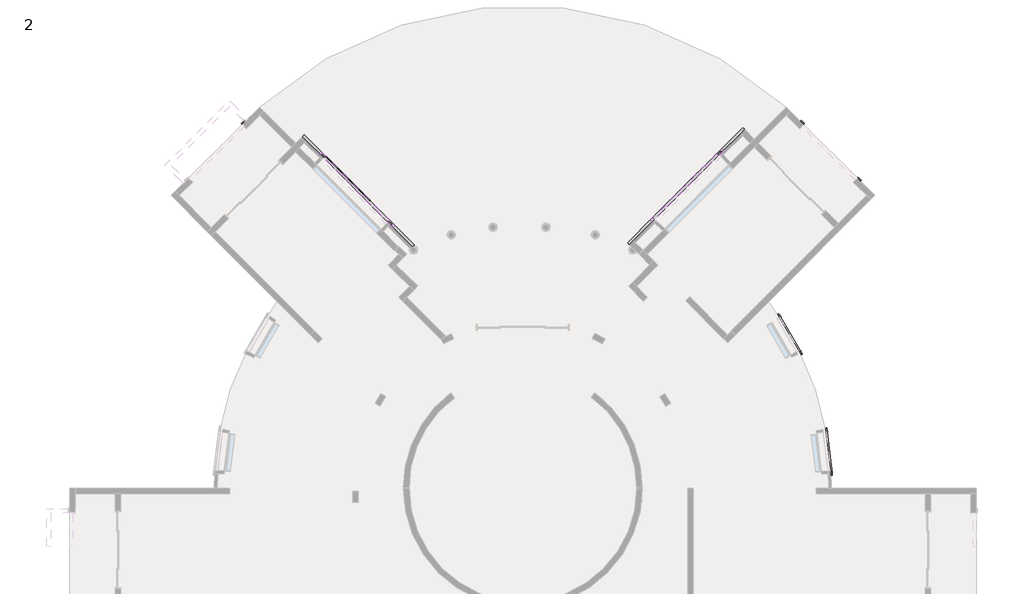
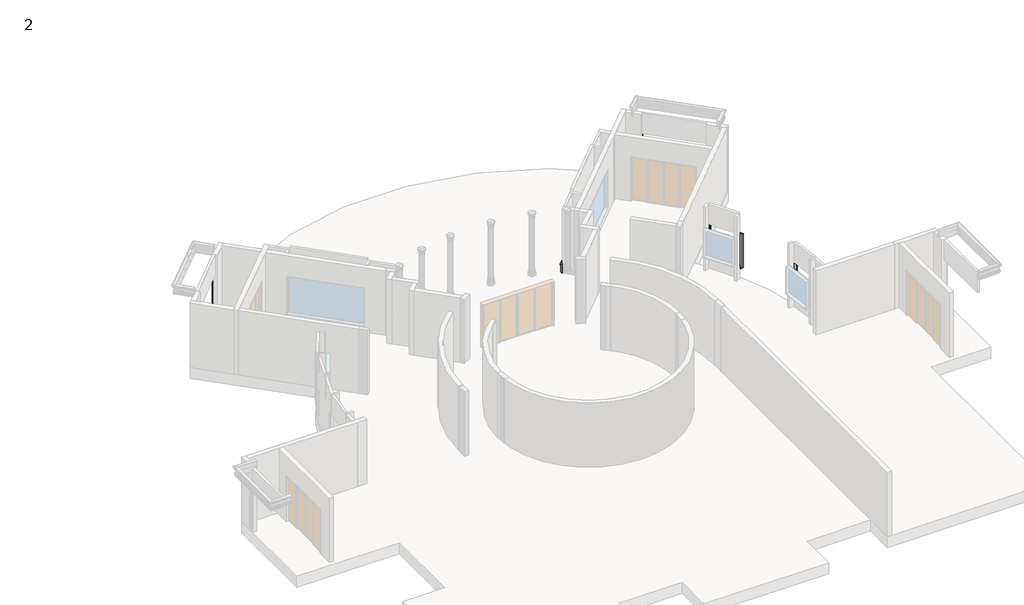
# One storey, part 10 of 10: 16 proxies.
"""IFC4 building model written with IfcOpenShell, lengths in millimetres."""

from ifc_helpers import new_model, si_unit, point, frame, frame_2d, origin, origin_with_axes, place, context, project, spatial, polyline, circle_curve, ellipse_curve, trimmed, segment, composite_curve, outline, extrude, element, save
from ifc_brep_helpers import plane_surface, cylinder_surface, revolved_surface, advanced_brep

model = new_model("IFC4")

# Units and contexts
model_context = context("Model", 3, world=origin())
ifc_project = project(units=[si_unit("LENGTHUNIT", "METRE", prefix="MILLI")], contexts=[model_context])

# Site, building, storey
site = spatial("IfcSite", under=ifc_project)
building = spatial("IfcBuilding", under=site)
storey = spatial("IfcBuildingStorey", under=building, Name="2", Elevation=0.0)

# Proxies
placement = place(None, origin())
element("IfcBuildingElementProxy", 1, Name="Cornice", ObjectType="Cornice", at=placement, inside=storey, context=model_context, shape_type="SweptSolid", body=[
    extrude(outline(polyline([(2787.1660726, 15309.7245365), (2823.087097, 15345.645561), (2930.8501705, 15237.8824876), (2921.8699144, 15228.9022315), (2944.3205547, 15206.4515912), (2917.3797863, 15179.5108228), (2787.1660726, 15309.7245365)])), frame((0.0, 0.0, 330.2), z_axis=(0.0, 0.0, 1.0), x_axis=(1.0, 0.0, 0.0)), (0.0, 0.0, 1.0), 2133.6),
])
element("IfcBuildingElementProxy", 2, Name="Cornice", ObjectType="Cornice", at=placement, inside=storey, context=model_context, shape_type="SweptSolid", body=[
    extrude(outline(polyline([(5202.8549691, 12894.03564), (5072.6412554, 13024.2493537), (5099.5820237, 13051.1901221), (5122.032664, 13028.7394818), (5131.0129202, 13037.7197379), (5238.7759936, 12929.9566645), (5202.8549691, 12894.03564)])), frame((0.0, 0.0, 304.8), z_axis=(0.0, 0.0, 1.0), x_axis=(1.0, 0.0, 0.0)), (0.0, 0.0, 1.0), 2133.6),
])
element("IfcBuildingElementProxy", 3, Name="Cornice", ObjectType="Cornice", at=placement, inside=storey, context=model_context, shape_type="SweptSolid", body=[
    extrude(outline(polyline([(-19565.0047027, 15310.3729855), (-19695.2184164, 15180.1592717), (-19722.1591848, 15207.1000401), (-19699.7085445, 15229.5506804), (-19708.6888006, 15238.5309365), (-19600.9257271, 15346.29401), (-19565.0047027, 15310.3729855)])), frame((0.0, 0.0, 279.4), z_axis=(0.0, 0.0, 1.0), x_axis=(1.0, 0.0, 0.0)), (0.0, 0.0, 1.0), 2159.0),
])
element("IfcBuildingElementProxy", 4, Name="Cornice", ObjectType="Cornice", at=placement, inside=storey, context=model_context, shape_type="SweptSolid", body=[
    extrude(outline(polyline([(-16395.9597018, 13818.664308), (-16526.1734156, 13948.8780218), (-16499.2326472, 13975.8187901), (-16476.7820069, 13953.3681498), (-16467.8017508, 13962.3484059), (-16360.0386774, 13854.5853325), (-16395.9597018, 13818.664308)])), origin_with_axes(), (0.0, 0.0, 1.0), 2438.4),
])
element("IfcBuildingElementProxy", 5, Name="Cornice", ObjectType="Cornice", at=placement, inside=storey, context=model_context, shape_type="SweptSolid", body=[
    extrude(outline(polyline([(-13822.1309132, 11246.8070907), (-13786.2098888, 11282.7281152), (-13678.4468153, 11174.9650418), (-13687.4270714, 11165.9847856), (-13664.9764311, 11143.5341453), (-13691.9171995, 11116.593377), (-13822.1309132, 11246.8070907)])), origin_with_axes(), (0.0, 0.0, 1.0), 2438.4),
])
element("IfcBuildingElementProxy", 6, Name="Cornice", ObjectType="Cornice", at=placement, inside=storey, context=model_context, shape_type="AdvancedBrep", body=[
    advanced_brep(
    [(3794.462252, 2953.5387644, 946.15), (3844.2907074, 2963.4263846, 946.15), (3844.2907074, 2963.4263846, 793.75), (3831.8335935, 2960.9544795, 793.75), (3831.8335935, 2960.9544795, 762.0), (3794.462252, 2953.5387644, 762.0), (4017.6108766, 1133.8097842, 946.15), (4017.6108766, 1133.8097842, 762.0), (4055.6667231, 1135.6435086, 762.0), (4055.6667231, 1135.6435086, 793.75), (4068.3520053, 1136.2547501, 793.75), (4068.3520053, 1136.2547501, 946.15)],
    [
        (0, 1),
        (1, 2),
        (2, 3),
        (3, 4),
        (4, 5),
        (5, 0),
        (6, 7),
        (7, 8),
        (8, 9),
        (9, 10),
        (10, 11),
        (11, 6),
        (11, 1, circle_curve(frame((-8388.5950906, 536.0156211, 946.15), z_axis=(0.0, 0.0, 1.0), x_axis=(0.980875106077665, 0.19463819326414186, 0.0)), 12471.4)),
        (0, 6, circle_curve(frame((-8388.5950906, 536.0156211, 946.15), z_axis=(0.0, 0.0, -1.0), x_axis=(0.980875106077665, 0.19463819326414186, 0.0)), 12420.6)),
        (10, 2, circle_curve(frame((-8388.5950906, 536.0156211, 793.75), z_axis=(0.0, 0.0, 1.0), x_axis=(0.980875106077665, 0.19463819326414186, 0.0)), 12471.4)),
        (9, 3, circle_curve(frame((-8388.5950906, 536.0156211, 793.75), z_axis=(0.0, 0.0, 1.0), x_axis=(0.980875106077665, 0.19463819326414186, 0.0)), 12458.7)),
        (8, 4, circle_curve(frame((-8388.5950906, 536.0156211, 762.0), z_axis=(0.0, 0.0, 1.0), x_axis=(0.980875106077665, 0.19463819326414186, 0.0)), 12458.7)),
        (7, 5, circle_curve(frame((-8388.5950906, 536.0156211, 762.0), z_axis=(0.0, 0.0, 1.0), x_axis=(0.980875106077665, 0.19463819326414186, 0.0)), 12420.6)),
    ],
    [
        plane_surface(frame((-8388.5950906, 536.0156211, 762.0), z_axis=(-0.19463819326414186, 0.980875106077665, 0.0), x_axis=(0.980875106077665, 0.19463819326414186, 0.0))),
        plane_surface(frame((-8388.5950906, 536.0156211, 762.0), z_axis=(0.048129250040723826, -0.9988411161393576, 0.0), x_axis=(0.9988411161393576, 0.048129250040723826, 0.0))),
        plane_surface(frame((-8388.5950906, 536.0156211, 946.15), z_axis=(0.0, 0.0, 1.0), x_axis=(0.980875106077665, 0.19463819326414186, 0.0))),
        cylinder_surface(frame((-8388.5950906, 536.0156211, 762.0), z_axis=(0.0, 0.0, -1.0), x_axis=(0.980875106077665, 0.19463819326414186, 0.0)), 12471.4),
        plane_surface(frame((-8388.5950906, 536.0156211, 793.75), z_axis=(0.0, 0.0, -1.0), x_axis=(0.980875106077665, 0.19463819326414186, 0.0))),
        cylinder_surface(frame((-8388.5950906, 536.0156211, 762.0), z_axis=(0.0, 0.0, -1.0), x_axis=(0.980875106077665, 0.19463819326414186, 0.0)), 12458.7),
        plane_surface(frame((-8388.5950906, 536.0156211, 762.0), z_axis=(0.0, 0.0, -1.0), x_axis=(0.980875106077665, 0.19463819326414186, 0.0))),
        revolved_surface(polyline([(3794.4622519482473, 2953.5387643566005, 762.0), (3794.4622519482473, 2953.5387643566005, 946.15)]), (-8388.5950906, 536.0156211, 762.0), (0.0, 0.0, -1.0)),
    ],
    [
        (0, [[1, 2, 3, 4, 5, 6]]),
        (1, [[7, 8, 9, 10, 11, 12]]),
        (2, [[13, -1, 14, -12]]),
        (3, [[15, -2, -13, -11]]),
        (4, [[16, -3, -15, -10]]),
        (5, [[17, -4, -16, -9]]),
        (6, [[18, -5, -17, -8]]),
        (7, [[-14, -6, -18, -7]]),
    ],
),
])
element("IfcBuildingElementProxy", 7, Name="Cornice", ObjectType="Cornice", at=placement, inside=storey, context=model_context, shape_type="SweptSolid", body=[
    extrude(outline(polyline([(3830.3048753, 2772.9106136), (3794.462252, 2953.5387644), (3831.8335935, 2960.9544795), (3838.0133562, 2929.8116949), (3850.47047, 2932.2836), (3880.1333307, 2782.7982338), (3830.3048753, 2772.9106136)])), frame((0.0, 0.0, 762.0), z_axis=(0.0, 0.0, 1.0), x_axis=(1.0, 0.0, 0.0)), (0.0, 0.0, 1.0), 1676.4),
])
element("IfcBuildingElementProxy", 8, Name="Cornice", ObjectType="Cornice", at=placement, inside=storey, context=model_context, shape_type="SweptSolid", body=[
    extrude(outline(polyline([(1977.6560998, 7380.4331888), (1873.9237006, 7532.5870972), (1905.4038196, 7554.0489729), (1923.288716, 7527.8155404), (1933.782089, 7534.969499), (2019.6295918, 7409.049023), (1977.6560998, 7380.4331888)])), frame((0.0, 0.0, 558.8), z_axis=(0.0, 0.0, 1.0), x_axis=(1.0, 0.0, 0.0)), (0.0, 0.0, 1.0), 1879.6),
])
element("IfcBuildingElementProxy", 9, Name="Cornice", ObjectType="Cornice", at=placement, inside=storey, context=model_context, shape_type="SweptSolid", body=[
    extrude(outline(polyline([(2811.2385961, 5908.9981237), (2729.1339635, 6073.8315299), (2763.2374269, 6090.8186953), (2777.393398, 6062.3991425), (2788.7612191, 6068.0615309), (2856.7098806, 5931.6476775), (2811.2385961, 5908.9981237)])), frame((0.0, 0.0, 558.8), z_axis=(0.0, 0.0, 1.0), x_axis=(1.0, 0.0, 0.0)), (0.0, 0.0, 1.0), 1879.6),
])
element("IfcBuildingElementProxy", 10, Name="Cornice", ObjectType="Cornice", at=placement, inside=storey, context=model_context, shape_type="SweptSolid", body=[
    extrude(outline(polyline([(4022.7822559, 1048.7806213), (4012.4539692, 1232.6407556), (4050.493997, 1234.7776425), (4052.2747361, 1203.0776194), (4064.9547453, 1203.789915), (4073.502293, 1051.6298038), (4022.7822559, 1048.7806213)])), frame((0.0, 0.0, 762.0), z_axis=(0.0, 0.0, 1.0), x_axis=(1.0, 0.0, 0.0)), (0.0, 0.0, 1.0), 1676.4),
])
element("IfcBuildingElementProxy", 11, Name="Cornice", ObjectType="Cornice", at=placement, inside=storey, context=model_context, shape_type="SweptSolid", body=[
    extrude(outline(polyline([(-508.0887694, 13937.1949538), (-544.0097939, 13973.1159783), (-436.2467204, 14080.8790518), (-427.2664643, 14071.8987956), (-404.815824, 14094.3494359), (-377.8750556, 14067.4086676), (-508.0887694, 13937.1949538)])), origin_with_axes(), (0.0, 0.0, 1.0), 2438.4),
])
element("IfcBuildingElementProxy", 12, Name="Cornice", ObjectType="Cornice", at=placement, inside=storey, context=model_context, shape_type="AdvancedBrep", body=[
    advanced_brep(
    [(1873.9237006, 7532.5870972, 641.35), (1915.8971926, 7561.2029315, 641.35), (1915.8971926, 7561.2029315, 488.95), (1905.4038196, 7554.0489729, 488.95), (1905.4038196, 7554.0489729, 457.2), (1873.9237006, 7532.5870972, 457.2), (2768.4920456, 5994.1023734, 641.35), (2768.4920456, 5994.1023734, 457.2), (2802.7162393, 6010.8449708, 457.2), (2802.7162393, 6010.8449708, 488.95), (2814.1243038, 6016.4258366, 488.95), (2814.1243038, 6016.4258366, 641.35)],
    [
        (0, 1),
        (1, 2),
        (2, 3),
        (3, 4),
        (4, 5),
        (5, 0),
        (6, 7),
        (7, 8),
        (8, 9),
        (9, 10),
        (10, 11),
        (11, 6),
        (11, 1, circle_curve(frame((-8388.5950907, 536.015621, 641.35), z_axis=(0.0, 0.0, 1.0), x_axis=(0.8262498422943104, 0.5633038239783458, 0.0)), 12471.4000002)),
        (0, 6, circle_curve(frame((-8388.5950907, 536.015621, 641.35), z_axis=(0.0, 0.0, -1.0), x_axis=(0.8262498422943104, 0.5633038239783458, 0.0)), 12420.6000002)),
        (10, 2, circle_curve(frame((-8388.5950907, 536.015621, 488.95), z_axis=(0.0, 0.0, 1.0), x_axis=(0.8262498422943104, 0.5633038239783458, 0.0)), 12471.4000002)),
        (9, 3, circle_curve(frame((-8388.5950907, 536.015621, 488.95), z_axis=(0.0, 0.0, 1.0), x_axis=(0.8262498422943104, 0.5633038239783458, 0.0)), 12458.7000002)),
        (8, 4, circle_curve(frame((-8388.5950907, 536.015621, 457.2), z_axis=(0.0, 0.0, 1.0), x_axis=(0.8262498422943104, 0.5633038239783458, 0.0)), 12458.7000002)),
        (7, 5, circle_curve(frame((-8388.5950907, 536.015621, 457.2), z_axis=(0.0, 0.0, 1.0), x_axis=(0.8262498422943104, 0.5633038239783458, 0.0)), 12420.6000002)),
    ],
    [
        plane_surface(frame((-8388.5950907, 536.015621, 457.2), z_axis=(-0.5633038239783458, 0.8262498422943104, 0.0), x_axis=(0.8262498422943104, 0.5633038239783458, 0.0))),
        plane_surface(frame((-8388.5950907, 536.015621, 457.2), z_axis=(0.43943825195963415, -0.8982727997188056, 0.0), x_axis=(0.8982727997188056, 0.43943825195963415, 0.0))),
        plane_surface(frame((-8388.5950907, 536.015621, 641.35), z_axis=(0.0, 0.0, 1.0), x_axis=(0.8262498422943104, 0.5633038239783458, 0.0))),
        cylinder_surface(frame((-8388.5950907, 536.015621, 457.2), z_axis=(0.0, 0.0, -1.0), x_axis=(0.8262498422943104, 0.5633038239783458, 0.0)), 12471.4000002),
        plane_surface(frame((-8388.5950907, 536.015621, 488.95), z_axis=(0.0, 0.0, -1.0), x_axis=(0.8262498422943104, 0.5633038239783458, 0.0))),
        cylinder_surface(frame((-8388.5950907, 536.015621, 457.2), z_axis=(0.0, 0.0, -1.0), x_axis=(0.8262498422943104, 0.5633038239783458, 0.0)), 12458.7000002),
        plane_surface(frame((-8388.5950907, 536.015621, 457.2), z_axis=(0.0, 0.0, -1.0), x_axis=(0.8262498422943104, 0.5633038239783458, 0.0))),
        revolved_surface(polyline([(1873.9237006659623, 7532.587097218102, 457.2), (1873.9237006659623, 7532.587097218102, 641.35)]), (-8388.5950907, 536.015621, 457.2), (0.0, 0.0, -1.0)),
    ],
    [
        (0, [[1, 2, 3, 4, 5, 6]]),
        (1, [[7, 8, 9, 10, 11, 12]]),
        (2, [[13, -1, 14, -12]]),
        (3, [[15, -2, -13, -11]]),
        (4, [[16, -3, -15, -10]]),
        (5, [[17, -4, -16, -9]]),
        (6, [[18, -5, -17, -8]]),
        (7, [[-14, -6, -18, -7]]),
    ],
),
])
element("IfcBuildingElementProxy", 13, Name="Cornice 2", ObjectType="Cornice 2", at=placement, inside=storey, context=model_context, shape_type="AdvancedBrep", body=[
    advanced_brep(
    [(-13602.0306061, 11026.8745042, 2933.7), (-13678.3918719, 11103.1775813, 2933.7), (-13678.3918719, 11103.1775813, 2438.4), (-13635.458984, 11060.277409, 2438.4), (-13635.458984, 11060.277409, 2482.85), (-13626.4753057, 11051.3005764, 2482.85), (-13626.4753057, 11051.3005764, 2838.45), (-13615.5061236, 11040.3397531, 2838.45), (-13615.5061236, 11040.3397531, 2857.5), (-13615.5061236, 11040.3397531, 2908.3), (-13602.0306061, 11026.8745042, 2908.3), (-13525.727529, 11103.23577, 2933.7), (-13592.5588117, 11103.210297, 2438.4), (-13592.5588117, 11103.210297, 2482.85), (-13574.5983008, 11103.2171427, 2482.85), (-13574.5983008, 11103.2171427, 2838.45), (-13552.6682954, 11103.2255014, 2838.45), (-13552.6682954, 11103.2255014, 2857.5), (-13552.6682954, 11103.2255014, 2908.3), (-13525.727529, 11103.23577, 2908.3), (-16517.2924148, 14092.5210264, 2933.7), (-16517.2342261, 13939.8566834, 2933.7), (-16517.2342261, 13939.8566834, 2438.4), (-16517.2669417, 14025.6897436, 2438.4), (-16517.2669417, 14025.6897436, 2482.85), (-16517.2737875, 14043.6502546, 2482.85), (-16517.2737875, 14043.6502546, 2838.45), (-16517.2821462, 14065.58026, 2838.45), (-16517.2821462, 14065.58026, 2857.5), (-16517.2821462, 14065.58026, 2908.3), (-16517.2924148, 14092.5210264, 2908.3), (-16593.5954919, 14016.1597605, 2933.7), (-16593.5954919, 14016.1597605, 2908.3), (-16580.1199744, 14002.6945116, 2908.3), (-16580.1199744, 14002.6945116, 2857.5), (-16580.1199744, 14002.6945116, 2838.45), (-16569.1507923, 13991.7336883, 2838.45), (-16569.1507923, 13991.7336883, 2482.85), (-16560.167114, 13982.7568557, 2482.85), (-16560.167114, 13982.7568557, 2438.4)],
    [
        (0, 1),
        (1, 2),
        (2, 3),
        (3, 4),
        (4, 5),
        (5, 6),
        (6, 7),
        (7, 8),
        (8, 9, circle_curve(frame((-13624.297354, 11049.1242844, 2882.9), z_axis=(-0.7068372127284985, -0.7073762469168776, 0.0), x_axis=(0.7073762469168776, -0.7068372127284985, 0.0)), 28.2774419)),
        (9, 10),
        (10, 0),
        (0, 11),
        (11, 1),
        (2, 12),
        (12, 3),
        (12, 13),
        (13, 4),
        (13, 14),
        (14, 5),
        (14, 15),
        (15, 6),
        (15, 16),
        (16, 7),
        (16, 17),
        (17, 8),
        (17, 18, ellipse_curve(frame((-13570.244057, 11103.2188024, 2882.9), z_axis=(0.00038115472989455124, -0.9999999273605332, 0.0), x_axis=(-0.9999999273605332, -0.000381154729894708, 0.0)), 39.9903419, 28.2774419)),
        (18, 9),
        (18, 19),
        (19, 10),
        (19, 11),
        (11, 20),
        (20, 21),
        (21, 1),
        (21, 22),
        (22, 2),
        (22, 23),
        (23, 12),
        (23, 24),
        (24, 13),
        (24, 25),
        (25, 14),
        (25, 26),
        (26, 15),
        (26, 27),
        (27, 16),
        (27, 28),
        (28, 17),
        (28, 29, ellipse_curve(frame((-16517.2754471, 14048.0044983, 2882.9), z_axis=(0.9999999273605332, 0.000381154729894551, 0.0), x_axis=(0.0003811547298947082, -0.9999999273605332, 0.0)), 39.9903419, 28.2774419)),
        (29, 18),
        (29, 30),
        (30, 19),
        (30, 20),
        (31, 32),
        (32, 33),
        (33, 34, circle_curve(frame((-16571.328744, 13993.9099803, 2882.9), z_axis=(-0.7068372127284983, -0.7073762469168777, 0.0), x_axis=(-0.7073762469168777, 0.7068372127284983, 0.0)), 28.2774419)),
        (34, 35),
        (35, 36),
        (36, 37),
        (37, 38),
        (38, 39),
        (39, 22),
        (21, 31),
        (20, 31),
        (39, 23),
        (38, 24),
        (37, 25),
        (36, 26),
        (35, 27),
        (34, 28),
        (33, 29),
        (32, 30),
    ],
    [
        plane_surface(frame((-13781.7197666, 11206.4267381, 2438.4), z_axis=(-0.7068372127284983, -0.7073762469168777, 0.0), x_axis=(-0.7073762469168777, 0.7068372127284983, 0.0))),
        plane_surface(frame((-13602.0306061, 11026.8745042, 2933.7), z_axis=(0.0, 0.0, 1.0), x_axis=(0.7068372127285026, 0.7073762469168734, 0.0))),
        plane_surface(frame((-13678.3918719, 11103.1775813, 2438.4), z_axis=(0.0, 0.0, -1.0), x_axis=(0.706837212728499, 0.7073762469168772, 0.0))),
        plane_surface(frame((-13635.458984, 11060.277409, 2438.4), z_axis=(0.7073762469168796, -0.7068372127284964, 0.0), x_axis=(0.7068372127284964, 0.7073762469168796, 0.0))),
        plane_surface(frame((-13635.458984, 11060.277409, 2482.85), z_axis=(0.0, 0.0, -1.0), x_axis=(0.7068372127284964, 0.7073762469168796, 0.0))),
        plane_surface(frame((-13626.4753057, 11051.3005764, 2482.85), z_axis=(0.7073762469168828, -0.7068372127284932, 0.0), x_axis=(0.7068372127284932, 0.7073762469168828, 0.0))),
        plane_surface(frame((-13626.4753057, 11051.3005764, 2838.45), z_axis=(0.0, 0.0, -1.0), x_axis=(0.7068372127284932, 0.7073762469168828, 0.0))),
        plane_surface(frame((-13615.5061236, 11040.3397531, 2838.45), z_axis=(0.7073762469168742, -0.7068372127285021, 0.0), x_axis=(0.7068372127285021, 0.7073762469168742, 0.0))),
        cylinder_surface(frame((-13624.297354, 11049.1242844, 2882.9), z_axis=(-0.7068372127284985, -0.7073762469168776, 0.0), x_axis=(0.7073762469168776, -0.7068372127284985, 0.0)), 28.2774419),
        plane_surface(frame((-13615.5061236, 11040.3397531, 2908.3), z_axis=(0.0, 0.0, -1.0000000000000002), x_axis=(0.7068372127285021, 0.7073762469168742, 0.0))),
        plane_surface(frame((-13602.0306061, 11026.8745042, 2908.3), z_axis=(0.7073762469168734, -0.7068372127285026, 0.0), x_axis=(0.7068372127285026, 0.7073762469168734, 0.0))),
        plane_surface(frame((-13525.727529, 11103.23577, 2933.7), z_axis=(0.0, 0.0, 1.0), x_axis=(-0.7073762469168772, 0.7068372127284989, 0.0))),
        plane_surface(frame((-13678.3918719, 11103.1775813, 2933.7), z_axis=(-0.7068372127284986, -0.7073762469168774, 0.0), x_axis=(-0.7073762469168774, 0.7068372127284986, 0.0))),
        plane_surface(frame((-13678.3918719, 11103.1775813, 2438.4), z_axis=(0.0, 0.0, -1.0), x_axis=(-0.7073762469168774, 0.7068372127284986, 0.0))),
        plane_surface(frame((-13592.5588117, 11103.210297, 2438.4), z_axis=(0.7068372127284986, 0.7073762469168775, 0.0), x_axis=(-0.7073762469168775, 0.7068372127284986, 0.0))),
        plane_surface(frame((-13592.5588117, 11103.210297, 2482.85), z_axis=(0.0, 0.0, -1.0), x_axis=(-0.7073762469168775, 0.7068372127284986, 0.0))),
        plane_surface(frame((-13574.5983008, 11103.2171427, 2482.85), z_axis=(0.7068372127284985, 0.7073762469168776, 0.0), x_axis=(-0.7073762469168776, 0.7068372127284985, 0.0))),
        plane_surface(frame((-13574.5983008, 11103.2171427, 2838.45), z_axis=(0.0, 0.0, -1.0000000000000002), x_axis=(-0.7073762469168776, 0.7068372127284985, 0.0))),
        plane_surface(frame((-13552.6682954, 11103.2255014, 2838.45), z_axis=(0.7068372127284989, 0.7073762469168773, 0.0), x_axis=(-0.7073762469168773, 0.7068372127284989, 0.0))),
        cylinder_surface(frame((-13624.338575, 11157.2720993, 2882.9), z_axis=(0.7073762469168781, -0.7068372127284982, 0.0), x_axis=(0.7068372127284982, 0.7073762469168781, 0.0)), 28.2774419),
        plane_surface(frame((-13552.6682954, 11103.2255014, 2908.3), z_axis=(0.0, 0.0, -1.0), x_axis=(-0.7073762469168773, 0.7068372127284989, 0.0))),
        plane_surface(frame((-13525.727529, 11103.23577, 2908.3), z_axis=(0.706837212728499, 0.7073762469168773, 0.0), x_axis=(-0.7073762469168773, 0.706837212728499, 0.0))),
        plane_surface(frame((-16517.2924148, 14092.5210264, 2933.7), z_axis=(0.0, 0.0, 1.0), x_axis=(-0.7068372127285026, -0.7073762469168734, 0.0))),
        plane_surface(frame((-16517.2342261, 13939.8566834, 2438.4), z_axis=(0.0, 0.0, -1.0), x_axis=(-0.706837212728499, -0.7073762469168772, 0.0))),
        plane_surface(frame((-16517.2669417, 14025.6897436, 2438.4), z_axis=(-0.7073762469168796, 0.7068372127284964, 0.0), x_axis=(-0.7068372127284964, -0.7073762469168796, 0.0))),
        plane_surface(frame((-16517.2669417, 14025.6897436, 2482.85), z_axis=(0.0, 0.0, -1.0), x_axis=(-0.7068372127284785, -0.7073762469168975, 0.0))),
        plane_surface(frame((-16517.2737875, 14043.6502546, 2482.85), z_axis=(-0.7073762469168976, 0.7068372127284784, 0.0), x_axis=(-0.7068372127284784, -0.7073762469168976, 0.0))),
        plane_surface(frame((-16517.2737875, 14043.6502546, 2838.45), z_axis=(0.0, 0.0, -1.0), x_axis=(-0.7068372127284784, -0.7073762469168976, 0.0))),
        plane_surface(frame((-16517.2821462, 14065.58026, 2838.45), z_axis=(-0.7073762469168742, 0.7068372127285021, 0.0), x_axis=(-0.7068372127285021, -0.7073762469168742, 0.0))),
        cylinder_surface(frame((-16571.328744, 13993.9099803, 2882.9), z_axis=(0.7068372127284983, 0.7073762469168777, 0.0), x_axis=(-0.7073762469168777, 0.7068372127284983, 0.0)), 28.2774419),
        plane_surface(frame((-16517.2821462, 14065.58026, 2908.3), z_axis=(0.0, 0.0, -1.0000000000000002), x_axis=(-0.7068372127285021, -0.7073762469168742, 0.0))),
        plane_surface(frame((-16517.2924148, 14092.5210264, 2908.3), z_axis=(-0.7073762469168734, 0.7068372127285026, 0.0), x_axis=(-0.7068372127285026, -0.7073762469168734, 0.0))),
    ],
    [
        (0, [[1, 2, 3, 4, 5, 6, 7, 8, 9, 10, 11]]),
        (1, [[-1, 12, 13]]),
        (2, [[-3, 14, 15]]),
        (3, [[-4, -15, 16, 17]]),
        (4, [[-5, -17, 18, 19]]),
        (5, [[-6, -19, 20, 21]]),
        (6, [[-7, -21, 22, 23]]),
        (7, [[-8, -23, 24, 25]]),
        (8, [[-9, -25, 26, 27]]),
        (9, [[-10, -27, 28, 29]]),
        (10, [[-11, -29, 30, -12]]),
        (11, [[-13, 31, 32, 33]]),
        (12, [[-2, -33, 34, 35]]),
        (13, [[-14, -35, 36, 37]]),
        (14, [[-16, -37, 38, 39]]),
        (15, [[-18, -39, 40, 41]]),
        (16, [[-20, -41, 42, 43]]),
        (17, [[-22, -43, 44, 45]]),
        (18, [[-24, -45, 46, 47]]),
        (19, [[-26, -47, 48, 49]]),
        (20, [[-28, -49, 50, 51]]),
        (21, [[-30, -51, 52, -31]]),
        (0, [[53, 54, 55, 56, 57, 58, 59, 60, 61, -34, 62]]),
        (22, [[-32, 63, -62]]),
        (23, [[-36, -61, 64]]),
        (24, [[-38, -64, -60, 65]]),
        (25, [[-40, -65, -59, 66]]),
        (26, [[-42, -66, -58, 67]]),
        (27, [[-44, -67, -57, 68]]),
        (28, [[-46, -68, -56, 69]]),
        (29, [[-48, -69, -55, 70]]),
        (30, [[-50, -70, -54, 71]]),
        (31, [[-52, -71, -53, -63]]),
    ],
),
    advanced_brep(
    [(-22025.5948798, 12849.7828083, 2933.7), (-22025.5948798, 12849.7828083, 2908.3), (-22012.1244956, 12863.2531925, 2908.3), (-22012.1244956, 12863.2531925, 2857.5), (-22012.1244956, 12863.2531925, 2838.45), (-22001.1594921, 12874.218196, 2838.45), (-22001.1594921, 12874.218196, 2482.85), (-21992.179236, 12883.1984521, 2482.85), (-21992.179236, 12883.1984521, 2438.4), (-21949.2627028, 12926.1149854, 2438.4), (-21949.2627028, 12926.1149854, 2933.7), (-22101.9270569, 12926.1149854, 2933.7), (-22101.9270569, 12926.1149854, 2908.3), (-22074.9862885, 12926.1149854, 2908.3), (-22074.9862885, 12926.1149854, 2857.5), (-22074.9862885, 12926.1149854, 2838.45), (-22053.0562815, 12926.1149854, 2838.45), (-22053.0562815, 12926.1149854, 2482.85), (-22035.0957692, 12926.1149854, 2482.85), (-22035.0957692, 12926.1149854, 2438.4), (-19587.455343, 15440.5866993, 2933.7), (-19587.455343, 15440.5866993, 2908.3), (-19587.455343, 15413.6459309, 2908.3), (-19587.455343, 15413.6459309, 2857.5), (-19587.455343, 15413.6459309, 2838.45), (-19587.455343, 15391.7159239, 2838.45), (-19587.455343, 15391.7159239, 2482.85), (-19587.455343, 15373.7554116, 2482.85), (-19587.455343, 15373.7554116, 2438.4), (-19587.455343, 15287.9223452, 2438.4), (-19587.455343, 15287.9223452, 2933.7), (-19511.1231659, 15364.2545222, 2933.7), (-19544.5388097, 15330.8388784, 2438.4), (-19544.5388097, 15330.8388784, 2482.85), (-19535.5585536, 15339.8191345, 2482.85), (-19535.5585536, 15339.8191345, 2838.45), (-19524.5935501, 15350.784138, 2838.45), (-19524.5935501, 15350.784138, 2857.5), (-19524.5935501, 15350.784138, 2908.3), (-19511.1231659, 15364.2545222, 2908.3)],
    [
        (0, 1),
        (1, 2),
        (2, 3, circle_curve(frame((-22003.3366142, 12872.041074, 2882.9), z_axis=(0.707106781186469, -0.7071067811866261, 0.0), x_axis=(-0.7071067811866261, -0.707106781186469, 0.0)), 28.2774419)),
        (3, 4),
        (4, 5),
        (5, 6),
        (6, 7),
        (7, 8),
        (8, 9),
        (9, 10),
        (10, 0),
        (0, 11),
        (11, 12),
        (12, 1),
        (12, 13),
        (13, 2),
        (13, 14, ellipse_curve(frame((-22057.4105256, 12926.1149854, 2882.9), z_axis=(0.0, -1.0, 0.0), x_axis=(1.0, 0.0, 0.0)), 39.9903419, 28.2774419)),
        (14, 3),
        (14, 15),
        (15, 4),
        (15, 16),
        (16, 5),
        (16, 17),
        (17, 6),
        (17, 18),
        (18, 7),
        (18, 19),
        (19, 8),
        (19, 9),
        (10, 11),
        (11, 20),
        (20, 21),
        (21, 12),
        (21, 22),
        (22, 13),
        (22, 23, ellipse_curve(frame((-19587.455343, 15396.070168, 2882.9), z_axis=(-1.0, 0.0, 0.0), x_axis=(0.0, -1.0, 0.0)), 39.9903419, 28.2774419)),
        (23, 14),
        (23, 24),
        (24, 15),
        (24, 25),
        (25, 16),
        (25, 26),
        (26, 17),
        (26, 27),
        (27, 18),
        (27, 28),
        (28, 19),
        (28, 29),
        (29, 9),
        (29, 30),
        (30, 10),
        (30, 20),
        (31, 30),
        (29, 32),
        (32, 33),
        (33, 34),
        (34, 35),
        (35, 36),
        (36, 37),
        (37, 38, circle_curve(frame((-19533.3814316, 15341.9962566, 2882.9), z_axis=(0.7071067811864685, -0.7071067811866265, 0.0), x_axis=(0.7071067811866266, 0.7071067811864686, 0.0)), 28.2774419)),
        (38, 39),
        (39, 31),
        (20, 31),
        (39, 21),
        (38, 22),
        (37, 23),
        (36, 24),
        (35, 25),
        (34, 26),
        (33, 27),
        (32, 28),
    ],
    [
        plane_surface(frame((-21850.4798855, 13024.8978027, 2438.4), z_axis=(0.7071067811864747, -0.7071067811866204, 0.0), x_axis=(-0.7071067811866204, -0.7071067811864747, 0.0))),
        plane_surface(frame((-22025.5948798, 12849.7828083, 2933.7), z_axis=(-0.7071067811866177, -0.7071067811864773, 0.0), x_axis=(-0.7071067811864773, 0.7071067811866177, 0.0))),
        plane_surface(frame((-22025.5948798, 12849.7828083, 2908.3), z_axis=(0.0, 0.0, -1.0), x_axis=(-0.7071067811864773, 0.7071067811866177, 0.0))),
        cylinder_surface(frame((-22003.3366142, 12872.041074, 2882.9), z_axis=(0.707106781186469, -0.7071067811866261, 0.0), x_axis=(-0.7071067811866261, -0.707106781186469, 0.0)), 28.2774419),
        plane_surface(frame((-22012.1244956, 12863.2531925, 2857.5), z_axis=(-0.7071067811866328, -0.7071067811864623, 0.0), x_axis=(-0.7071067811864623, 0.7071067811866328, 0.0))),
        plane_surface(frame((-22012.1244956, 12863.2531925, 2838.45), z_axis=(0.0, 0.0, -1.0000000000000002), x_axis=(-0.7071067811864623, 0.7071067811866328, 0.0))),
        plane_surface(frame((-22001.1594921, 12874.218196, 2838.45), z_axis=(-0.7071067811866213, -0.7071067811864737, 0.0), x_axis=(-0.7071067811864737, 0.7071067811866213, 0.0))),
        plane_surface(frame((-22001.1594921, 12874.218196, 2482.85), z_axis=(0.0, 0.0, -1.0), x_axis=(-0.7071067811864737, 0.7071067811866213, 0.0))),
        plane_surface(frame((-21992.179236, 12883.1984521, 2482.85), z_axis=(-0.7071067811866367, -0.7071067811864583, 0.0), x_axis=(-0.7071067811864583, 0.7071067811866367, 0.0))),
        plane_surface(frame((-21992.179236, 12883.1984521, 2438.4), z_axis=(0.0, 0.0, -1.0), x_axis=(-0.7071067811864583, 0.7071067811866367, 0.0))),
        plane_surface(frame((-21949.2627028, 12926.1149854, 2933.7), z_axis=(0.0, 0.0, 1.0), x_axis=(-0.7071067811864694, 0.7071067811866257, 0.0))),
        plane_surface(frame((-22101.9270569, 12926.1149854, 2933.7), z_axis=(-0.7071067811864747, 0.7071067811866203, 0.0), x_axis=(0.7071067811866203, 0.7071067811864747, 0.0))),
        plane_surface(frame((-22101.9270569, 12926.1149854, 2908.3), z_axis=(0.0, 0.0, -1.0), x_axis=(0.7071067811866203, 0.7071067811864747, 0.0))),
        cylinder_surface(frame((-22003.3366142, 12980.1888967, 2882.9), z_axis=(-0.7071067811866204, -0.7071067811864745, 0.0), x_axis=(-0.7071067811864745, 0.7071067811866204, 0.0)), 28.2774419),
        plane_surface(frame((-22074.9862885, 12926.1149854, 2857.5), z_axis=(-0.7071067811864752, 0.7071067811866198, 0.0), x_axis=(0.7071067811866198, 0.7071067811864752, 0.0))),
        plane_surface(frame((-22074.9862885, 12926.1149854, 2838.45), z_axis=(0.0, 0.0, -1.0), x_axis=(0.7071067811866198, 0.7071067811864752, 0.0))),
        plane_surface(frame((-22053.0562815, 12926.1149854, 2838.45), z_axis=(-0.7071067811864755, 0.7071067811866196, 0.0), x_axis=(0.7071067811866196, 0.7071067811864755, 0.0))),
        plane_surface(frame((-22053.0562815, 12926.1149854, 2482.85), z_axis=(0.0, 0.0, -1.0), x_axis=(0.7071067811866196, 0.7071067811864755, 0.0))),
        plane_surface(frame((-22035.0957692, 12926.1149854, 2482.85), z_axis=(-0.7071067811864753, 0.7071067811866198, 0.0), x_axis=(0.7071067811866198, 0.7071067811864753, 0.0))),
        plane_surface(frame((-22035.0957692, 12926.1149854, 2438.4), z_axis=(0.0, 0.0, -1.0000000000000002), x_axis=(0.7071067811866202, 0.707106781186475, 0.0))),
        plane_surface(frame((-21949.2627028, 12926.1149854, 2438.4), z_axis=(0.7071067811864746, -0.7071067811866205, 0.0), x_axis=(0.7071067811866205, 0.7071067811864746, 0.0))),
        plane_surface(frame((-21949.2627028, 12926.1149854, 2933.7), z_axis=(0.0, 0.0, 1.0000000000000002), x_axis=(0.7071067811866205, 0.7071067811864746, 0.0))),
        plane_surface(frame((-19587.455343, 15440.5866993, 2933.7), z_axis=(0.7071067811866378, 0.7071067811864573, 0.0), x_axis=(0.7071067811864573, -0.7071067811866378, 0.0))),
        plane_surface(frame((-19587.455343, 15440.5866993, 2908.3), z_axis=(0.0, 0.0, -1.0), x_axis=(0.7071067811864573, -0.7071067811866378, 0.0))),
        cylinder_surface(frame((-19533.3814316, 15341.9962566, 2882.9), z_axis=(-0.7071067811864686, 0.7071067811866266, 0.0), x_axis=(0.7071067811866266, 0.7071067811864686, 0.0)), 28.2774419),
        plane_surface(frame((-19587.455343, 15413.6459309, 2857.5), z_axis=(0.7071067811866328, 0.7071067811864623, 0.0), x_axis=(0.7071067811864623, -0.7071067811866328, 0.0))),
        plane_surface(frame((-19587.455343, 15413.6459309, 2838.45), z_axis=(0.0, 0.0, -1.0), x_axis=(0.7071067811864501, -0.7071067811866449, 0.0))),
        plane_surface(frame((-19587.455343, 15391.7159239, 2838.45), z_axis=(0.7071067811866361, 0.707106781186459, 0.0), x_axis=(0.707106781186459, -0.7071067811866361, 0.0))),
        plane_surface(frame((-19587.455343, 15391.7159239, 2482.85), z_axis=(0.0, 0.0, -1.0), x_axis=(0.707106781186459, -0.7071067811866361, 0.0))),
        plane_surface(frame((-19587.455343, 15373.7554116, 2482.85), z_axis=(0.707106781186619, 0.7071067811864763, 0.0), x_axis=(0.7071067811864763, -0.707106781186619, 0.0))),
        plane_surface(frame((-19587.455343, 15373.7554116, 2438.4), z_axis=(0.0, 0.0, -1.0), x_axis=(0.7071067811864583, -0.7071067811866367, 0.0))),
        plane_surface(frame((-19587.455343, 15287.9223452, 2933.7), z_axis=(0.0, 0.0, 1.0), x_axis=(0.7071067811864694, -0.7071067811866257, 0.0))),
    ],
    [
        (0, [[1, 2, 3, 4, 5, 6, 7, 8, 9, 10, 11]]),
        (1, [[-1, 12, 13, 14]]),
        (2, [[-2, -14, 15, 16]]),
        (3, [[-3, -16, 17, 18]]),
        (4, [[-4, -18, 19, 20]]),
        (5, [[-5, -20, 21, 22]]),
        (6, [[-6, -22, 23, 24]]),
        (7, [[-7, -24, 25, 26]]),
        (8, [[-8, -26, 27, 28]]),
        (9, [[-9, -28, 29]]),
        (10, [[-11, 30, -12]]),
        (11, [[-13, 31, 32, 33]]),
        (12, [[-15, -33, 34, 35]]),
        (13, [[-17, -35, 36, 37]]),
        (14, [[-19, -37, 38, 39]]),
        (15, [[-21, -39, 40, 41]]),
        (16, [[-23, -41, 42, 43]]),
        (17, [[-25, -43, 44, 45]]),
        (18, [[-27, -45, 46, 47]]),
        (19, [[-29, -47, 48, 49]]),
        (20, [[-10, -49, 50, 51]]),
        (21, [[-30, -51, 52, -31]]),
        (0, [[53, -50, 54, 55, 56, 57, 58, 59, 60, 61, 62]]),
        (22, [[-32, 63, -62, 64]]),
        (23, [[-34, -64, -61, 65]]),
        (24, [[-36, -65, -60, 66]]),
        (25, [[-38, -66, -59, 67]]),
        (26, [[-40, -67, -58, 68]]),
        (27, [[-42, -68, -57, 69]]),
        (28, [[-44, -69, -56, 70]]),
        (29, [[-46, -70, -55, 71]]),
        (30, [[-48, -71, -54]]),
        (31, [[-52, -53, -63]]),
    ],
),
])
element("IfcBuildingElementProxy", 14, Name="Cornice 2", ObjectType="Cornice 2", at=placement, inside=storey, context=model_context, shape_type="AdvancedBrep", body=[
    advanced_brep(
    [(-3260.5372705, 11337.4108068, 2933.7), (-3260.5372705, 11337.4108068, 2908.3), (-3247.0668863, 11323.9404226, 2908.3), (-3247.0668863, 11323.9404226, 2857.5), (-3247.0668863, 11323.9404226, 2838.45), (-3236.1018828, 11312.9754191, 2838.45), (-3236.1018828, 11312.9754191, 2482.85), (-3227.1216267, 11303.995163, 2482.85), (-3227.1216267, 11303.995163, 2438.4), (-3184.2050934, 11261.0786297, 2438.4), (-3184.2050934, 11261.0786297, 2933.7), (-377.8750556, 14220.0730216, 2933.7), (-377.8750556, 14220.0730216, 2908.3), (-377.8750556, 14193.1322533, 2908.3), (-377.8750556, 14193.1322533, 2857.5), (-377.8750556, 14193.1322533, 2838.45), (-377.8750556, 14171.2022463, 2838.45), (-377.8750556, 14171.2022463, 2482.85), (-377.8750556, 14153.241734, 2482.85), (-377.8750556, 14153.241734, 2438.4), (-377.8750556, 14067.4086676, 2438.4), (-377.8750556, 14067.4086676, 2933.7), (-301.5428786, 14143.7408446, 2933.7), (-334.9585224, 14110.3252008, 2438.4), (-334.9585224, 14110.3252008, 2482.85), (-325.9782663, 14119.3054569, 2482.85), (-325.9782663, 14119.3054569, 2838.45), (-315.0132628, 14130.2704604, 2838.45), (-315.0132628, 14130.2704604, 2857.5), (-315.0132628, 14130.2704604, 2908.3), (-301.5428786, 14143.7408446, 2908.3)],
    [
        (0, 1),
        (1, 2),
        (2, 3, circle_curve(frame((-3238.2790048, 11315.1525411, 2882.9), z_axis=(-0.7071067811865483, -0.7071067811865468, 0.0), x_axis=(-0.7071067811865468, 0.7071067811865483, 0.0)), 28.2774419)),
        (3, 4),
        (4, 5),
        (5, 6),
        (6, 7),
        (7, 8),
        (8, 9),
        (9, 10),
        (10, 0),
        (0, 11),
        (11, 12),
        (12, 1),
        (12, 13),
        (13, 2),
        (13, 14, ellipse_curve(frame((-377.8750556, 14175.5564903, 2882.9), z_axis=(-1.0, 0.0, 0.0), x_axis=(0.0, -1.0, 0.0)), 39.9903419, 28.2774419)),
        (14, 3),
        (14, 15),
        (15, 4),
        (15, 16),
        (16, 5),
        (16, 17),
        (17, 6),
        (17, 18),
        (18, 7),
        (18, 19),
        (19, 8),
        (19, 20),
        (20, 9),
        (20, 21),
        (21, 10),
        (21, 11),
        (22, 21),
        (20, 23),
        (23, 24),
        (24, 25),
        (25, 26),
        (26, 27),
        (27, 28),
        (28, 29, circle_curve(frame((-323.8011442, 14121.482579, 2882.9), z_axis=(0.7071067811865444, -0.7071067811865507, 0.0), x_axis=(0.7071067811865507, 0.7071067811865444, 0.0)), 28.2774419)),
        (29, 30),
        (30, 22),
        (11, 22),
        (30, 12),
        (29, 13),
        (28, 14),
        (27, 15),
        (26, 16),
        (25, 17),
        (24, 18),
        (23, 19),
    ],
    [
        plane_surface(frame((-3184.2050934, 11261.0786297, 2945.3273049), z_axis=(-0.7071067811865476, -0.7071067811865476, 0.0), x_axis=(0.7071067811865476, -0.7071067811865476, 0.0))),
        plane_surface(frame((-3260.5372705, 11337.4108068, 2933.7), z_axis=(-0.7071067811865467, 0.7071067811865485, 0.0), x_axis=(0.7071067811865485, 0.7071067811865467, 0.0))),
        plane_surface(frame((-3260.5372705, 11337.4108068, 2908.3), z_axis=(0.0, 0.0, -1.0000000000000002), x_axis=(0.7071067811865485, 0.7071067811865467, 0.0))),
        cylinder_surface(frame((-3238.2790048, 11315.1525411, 2882.9), z_axis=(-0.7071067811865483, -0.7071067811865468, 0.0), x_axis=(-0.7071067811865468, 0.7071067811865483, 0.0)), 28.2774419),
        plane_surface(frame((-3247.0668863, 11323.9404226, 2857.5), z_axis=(-0.7071067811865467, 0.7071067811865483, 0.0), x_axis=(0.7071067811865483, 0.7071067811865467, 0.0))),
        plane_surface(frame((-3247.0668863, 11323.9404226, 2838.45), z_axis=(0.0, 0.0, -1.0), x_axis=(0.7071067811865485, 0.7071067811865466, 0.0))),
        plane_surface(frame((-3236.1018828, 11312.9754191, 2838.45), z_axis=(-0.7071067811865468, 0.7071067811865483, 0.0), x_axis=(0.7071067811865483, 0.7071067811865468, 0.0))),
        plane_surface(frame((-3236.1018828, 11312.9754191, 2482.85), z_axis=(0.0, 0.0, -1.0000000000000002), x_axis=(0.7071067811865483, 0.7071067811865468, 0.0))),
        plane_surface(frame((-3227.1216267, 11303.995163, 2482.85), z_axis=(-0.7071067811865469, 0.7071067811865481, 0.0), x_axis=(0.7071067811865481, 0.7071067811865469, 0.0))),
        plane_surface(frame((-3227.1216267, 11303.995163, 2438.4), z_axis=(0.0, 0.0, -1.0), x_axis=(0.7071067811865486, 0.7071067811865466, 0.0))),
        plane_surface(frame((-3184.2050934, 11261.0786297, 2438.4), z_axis=(0.7071067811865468, -0.7071067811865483, 0.0), x_axis=(0.7071067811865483, 0.7071067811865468, 0.0))),
        plane_surface(frame((-3184.2050934, 11261.0786297, 2933.7), z_axis=(0.0, 0.0, 1.0000000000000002), x_axis=(0.7071067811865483, 0.7071067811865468, 0.0))),
        plane_surface(frame((-3116.8531725, 11328.4305507, 2438.4), z_axis=(0.7071067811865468, -0.7071067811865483, 0.0), x_axis=(-0.7071067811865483, -0.7071067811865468, 0.0))),
        plane_surface(frame((-377.8750556, 14220.0730216, 2933.7), z_axis=(0.7071067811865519, 0.7071067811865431, 0.0), x_axis=(0.7071067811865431, -0.7071067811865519, 0.0))),
        plane_surface(frame((-377.8750556, 14220.0730216, 2908.3), z_axis=(0.0, 0.0, -1.0), x_axis=(0.7071067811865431, -0.7071067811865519, 0.0))),
        cylinder_surface(frame((-323.8011442, 14121.482579, 2882.9), z_axis=(-0.7071067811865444, 0.7071067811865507, 0.0), x_axis=(0.7071067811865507, 0.7071067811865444, 0.0)), 28.2774419),
        plane_surface(frame((-377.8750556, 14193.1322533, 2857.5), z_axis=(0.7071067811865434, 0.7071067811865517, 0.0), x_axis=(0.7071067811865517, -0.7071067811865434, 0.0))),
        plane_surface(frame((-377.8750556, 14193.1322533, 2838.45), z_axis=(0.0, 0.0, -1.0), x_axis=(0.7071067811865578, -0.7071067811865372, 0.0))),
        plane_surface(frame((-377.8750556, 14171.2022463, 2838.45), z_axis=(0.7071067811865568, 0.7071067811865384, 0.0), x_axis=(0.7071067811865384, -0.7071067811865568, 0.0))),
        plane_surface(frame((-377.8750556, 14171.2022463, 2482.85), z_axis=(0.0, 0.0, -1.0), x_axis=(0.7071067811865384, -0.7071067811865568, 0.0))),
        plane_surface(frame((-377.8750556, 14153.241734, 2482.85), z_axis=(0.7071067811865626, 0.7071067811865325, 0.0), x_axis=(0.7071067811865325, -0.7071067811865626, 0.0))),
        plane_surface(frame((-377.8750556, 14153.241734, 2438.4), z_axis=(0.0, 0.0, -1.0), x_axis=(0.7071067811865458, -0.7071067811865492, 0.0))),
        plane_surface(frame((-377.8750556, 14067.4086676, 2933.7), z_axis=(0.0, 0.0, 1.0000000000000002), x_axis=(0.7071067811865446, -0.7071067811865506, 0.0))),
    ],
    [
        (0, [[1, 2, 3, 4, 5, 6, 7, 8, 9, 10, 11]]),
        (1, [[-1, 12, 13, 14]]),
        (2, [[-2, -14, 15, 16]]),
        (3, [[-3, -16, 17, 18]]),
        (4, [[-4, -18, 19, 20]]),
        (5, [[-5, -20, 21, 22]]),
        (6, [[-6, -22, 23, 24]]),
        (7, [[-7, -24, 25, 26]]),
        (8, [[-8, -26, 27, 28]]),
        (9, [[-9, -28, 29, 30]]),
        (10, [[-10, -30, 31, 32]]),
        (11, [[-11, -32, 33, -12]]),
        (12, [[34, -31, 35, 36, 37, 38, 39, 40, 41, 42, 43]]),
        (13, [[-13, 44, -43, 45]]),
        (14, [[-15, -45, -42, 46]]),
        (15, [[-17, -46, -41, 47]]),
        (16, [[-19, -47, -40, 48]]),
        (17, [[-21, -48, -39, 49]]),
        (18, [[-23, -49, -38, 50]]),
        (19, [[-25, -50, -37, 51]]),
        (20, [[-27, -51, -36, 52]]),
        (21, [[-29, -52, -35]]),
        (22, [[-33, -34, -44]]),
    ],
),
])
element("IfcBuildingElementProxy", 15, Name="Cornice 2", ObjectType="Cornice 2", at=placement, inside=storey, context=model_context, shape_type="SweptSolid", body=[
    extrude(outline(composite_curve([segment(polyline([(107.9500001, -1002.2273049), (0.0, -1002.2273049), (0.0, -506.9273049), (60.6931434, -506.9273049), (60.6931434, -551.3773049), (73.3931434, -551.3773049), (73.3931434, -906.9773049), (88.9000001, -906.9773049), (88.9000001, -926.0273049)]), True, "CONTINUOUS"), segment(trimmed(circle_curve(frame_2d((76.4720589, -951.4273049)), 28.2774419), [point((88.9000001, -926.0273049))], [point((88.9000001, -976.8273049))], False, "CARTESIAN"), True, "CONTINUOUS"), segment(polyline([(88.9000001, -976.8273049), (107.9500001, -976.8273049), (107.9500001, -1002.2273049)]), True, "CONTINUOUS")], self_intersect=False)), frame((-16409.4304618, 13832.1350679, -506.9273049), z_axis=(-0.707106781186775, 0.7071067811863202, 0.0), x_axis=(0.7071067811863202, 0.707106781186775, 0.0)), (0.0, 0.0, 1.0), 1215.5295337),
    extrude(outline(composite_curve([segment(polyline([(107.95, -1002.2273049), (0.0, -1002.2273049), (0.0, -506.9273049), (60.6931434, -506.9273049), (60.6931434, -551.3773049), (73.3931433, -551.3773049), (73.3931433, -906.9773049), (88.9, -906.9773049), (88.9, -926.0273049)]), True, "CONTINUOUS"), segment(trimmed(circle_curve(frame_2d((76.4720589, -951.4273049)), 28.2774419), [point((88.9, -926.0273049))], [point((88.9, -976.8273049))], False, "CARTESIAN"), True, "CONTINUOUS"), segment(polyline([(88.9, -976.8273049), (107.95, -976.8273049), (107.95, -1002.2273049)]), True, "CONTINUOUS")], self_intersect=False)), frame((-12836.2042794, 10260.8804569, -506.9273049), z_axis=(-0.7071067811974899, 0.7071067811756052, 0.0), x_axis=(0.7071067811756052, 0.7071067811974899, 0.0)), (0.0, 0.0, 1.0), 5029.2),
])
element("IfcBuildingElementProxy", 16, Name="Cornice 2", ObjectType="Cornice 2", at=placement, inside=storey, context=model_context, shape_type="SweptSolid", body=[
    extrude(outline(composite_curve([segment(polyline([(-495.3, 412.75), (-469.9, 412.75), (-469.9, 393.6999999)]), True, "CONTINUOUS"), segment(trimmed(circle_curve(frame_2d((-444.5, 381.2720589)), 28.2774419), [point((-469.9, 393.6999999))], [point((-419.1, 393.6999999))], False, "CARTESIAN"), True, "CONTINUOUS"), segment(polyline([(-419.1, 393.6999999), (-400.05, 393.6999999), (-400.05, 378.1931433), (-44.45, 378.1931433), (-44.45, 365.4931433), (0.0, 365.4931433), (0.0, 304.8), (-495.3, 304.8), (-495.3, 412.75)]), True, "CONTINUOUS")], self_intersect=False)), frame((-2860.9158731, 11153.3155563, 0.0), z_axis=(0.707106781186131, 0.7071067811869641, 0.0), x_axis=(0.0, 0.0, -1.0)), (0.0, 0.0, 1.0), 5105.4),
    extrude(outline(composite_curve([segment(polyline([(-107.95, 11.6273049), (-107.95, 37.0273049), (-88.9, 37.0273049)]), True, "CONTINUOUS"), segment(trimmed(circle_curve(frame_2d((-76.4720588, 62.4273049)), 28.2774419), [point((-88.9, 37.0273049))], [point((-88.9, 87.8273049))], False, "CARTESIAN"), True, "CONTINUOUS"), segment(polyline([(-88.9, 87.8273049), (-88.9, 106.8773049), (-73.3931433, 106.8773049), (-73.3931433, 462.4773049), (-60.6931434, 462.4773049), (-60.6931434, 506.9273049), (0.0, 506.9273049), (0.0, 11.6273049), (-107.95, 11.6273049)]), True, "CONTINUOUS")], self_intersect=False)), frame((-4099.2281682, 10346.055555, 506.9273049), z_axis=(0.7071067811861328, 0.7071067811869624, 0.0), x_axis=(0.7071067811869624, -0.7071067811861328, 0.0)), (0.0, 0.0, 1.0), 1446.4380422),
])

save(model, "model.ifc")
